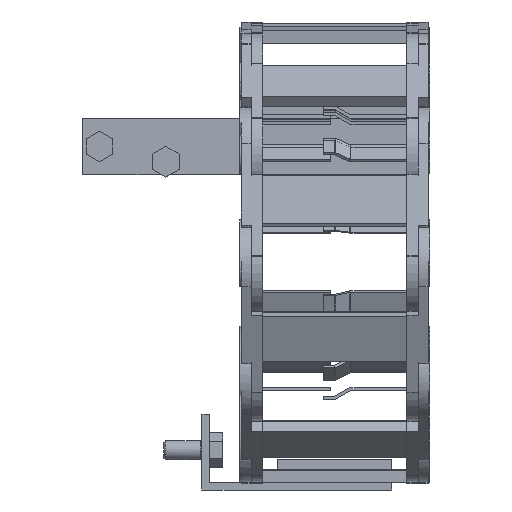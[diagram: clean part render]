
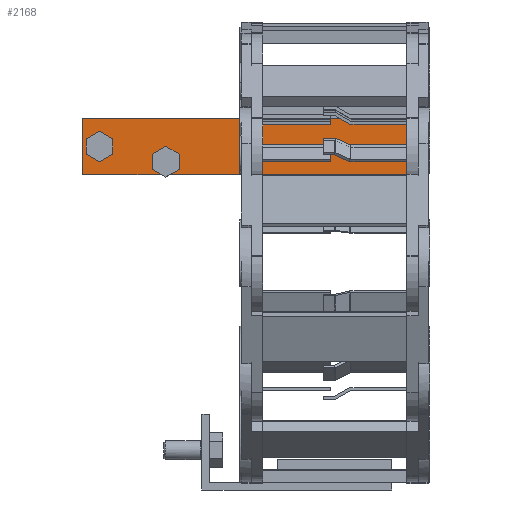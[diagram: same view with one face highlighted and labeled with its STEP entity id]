
A CAD part, left-side view. The second image highlights one B-rep face of the part: STEP entity #2168.
In plain terms, the highlighted planar face has unit normal (-1, 0, 0).
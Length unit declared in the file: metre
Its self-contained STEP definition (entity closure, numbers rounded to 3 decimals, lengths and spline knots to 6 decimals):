
#2168 = ADVANCED_FACE( '', ( #5706, #5707 ), #5708, .F. );
#5706 = FACE_OUTER_BOUND( '', #10858, .T. );
#5707 = FACE_BOUND( '', #10859, .T. );
#5708 = PLANE( '', #10860 );
#10858 = EDGE_LOOP( '', ( #16980, #16981, #16982, #16983, #16984, #16985, #16986, #16987, #16988, #16989, #16990, #16991, #16992 ) );
#10859 = EDGE_LOOP( '', ( #16993, #16994, #16995, #16996, #16997, #16998 ) );
#10860 = AXIS2_PLACEMENT_3D( '', #16999, #17000, #17001 );
#16980 = ORIENTED_EDGE( '', *, *, #32070, .F. );
#16981 = ORIENTED_EDGE( '', *, *, #32071, .F. );
#16982 = ORIENTED_EDGE( '', *, *, #31898, .F. );
#16983 = ORIENTED_EDGE( '', *, *, #32072, .F. );
#16984 = ORIENTED_EDGE( '', *, *, #32073, .F. );
#16985 = ORIENTED_EDGE( '', *, *, #31672, .F. );
#16986 = ORIENTED_EDGE( '', *, *, #32074, .T. );
#16987 = ORIENTED_EDGE( '', *, *, #32075, .T. );
#16988 = ORIENTED_EDGE( '', *, *, #32076, .T. );
#16989 = ORIENTED_EDGE( '', *, *, #32077, .F. );
#16990 = ORIENTED_EDGE( '', *, *, #31656, .F. );
#16991 = ORIENTED_EDGE( '', *, *, #32078, .F. );
#16992 = ORIENTED_EDGE( '', *, *, #32079, .T. );
#16993 = ORIENTED_EDGE( '', *, *, #32080, .F. );
#16994 = ORIENTED_EDGE( '', *, *, #31522, .F. );
#16995 = ORIENTED_EDGE( '', *, *, #31527, .F. );
#16996 = ORIENTED_EDGE( '', *, *, #32081, .F. );
#16997 = ORIENTED_EDGE( '', *, *, #32082, .F. );
#16998 = ORIENTED_EDGE( '', *, *, #32083, .F. );
#16999 = CARTESIAN_POINT( '', ( 0.0755, 0.0855, 0.0685 ) );
#17000 = DIRECTION( '', ( 1., 0., 0. ) );
#17001 = DIRECTION( '', ( 0., 0., -1. ) );
#31522 = EDGE_CURVE( '', #38164, #38165, #38166, .T. );
#31527 = EDGE_CURVE( '', #38173, #38164, #38174, .T. );
#31656 = EDGE_CURVE( '', #38404, #38405, #38406, .T. );
#31672 = EDGE_CURVE( '', #38429, #38431, #38432, .T. );
#31898 = EDGE_CURVE( '', #38836, #38837, #38838, .T. );
#32070 = EDGE_CURVE( '', #39140, #39141, #39142, .T. );
#32071 = EDGE_CURVE( '', #38837, #39140, #39143, .T. );
#32072 = EDGE_CURVE( '', #39144, #38836, #39145, .T. );
#32073 = EDGE_CURVE( '', #38431, #39144, #39146, .T. );
#32074 = EDGE_CURVE( '', #38429, #39147, #39148, .T. );
#32075 = EDGE_CURVE( '', #39147, #39149, #39150, .F. );
#32076 = EDGE_CURVE( '', #39149, #39151, #39152, .T. );
#32077 = EDGE_CURVE( '', #38405, #39151, #39153, .T. );
#32078 = EDGE_CURVE( '', #39154, #38404, #39155, .T. );
#32079 = EDGE_CURVE( '', #39154, #39141, #39156, .T. );
#32080 = EDGE_CURVE( '', #38165, #39157, #39158, .T. );
#32081 = EDGE_CURVE( '', #39159, #38173, #39160, .T. );
#32082 = EDGE_CURVE( '', #39161, #39159, #39162, .T. );
#32083 = EDGE_CURVE( '', #39157, #39161, #39163, .T. );
#38164 = VERTEX_POINT( '', #47778 );
#38165 = VERTEX_POINT( '', #47779 );
#38166 = LINE( '', #47780, #47781 );
#38173 = VERTEX_POINT( '', #47791 );
#38174 = LINE( '', #47792, #47793 );
#38404 = VERTEX_POINT( '', #48102 );
#38405 = VERTEX_POINT( '', #48103 );
#38406 = LINE( '', #48104, #48105 );
#38429 = VERTEX_POINT( '', #48139 );
#38431 = VERTEX_POINT( '', #48142 );
#38432 = LINE( '', #48143, #48144 );
#38836 = VERTEX_POINT( '', #48683 );
#38837 = VERTEX_POINT( '', #48684 );
#38838 = LINE( '', #48685, #48686 );
#39140 = VERTEX_POINT( '', #49120 );
#39141 = VERTEX_POINT( '', #49121 );
#39142 = LINE( '', #49122, #49123 );
#39143 = LINE( '', #49124, #49125 );
#39144 = VERTEX_POINT( '', #49126 );
#39145 = LINE( '', #49127, #49128 );
#39146 = LINE( '', #49129, #49130 );
#39147 = VERTEX_POINT( '', #49131 );
#39148 = LINE( '', #49132, #49133 );
#39149 = VERTEX_POINT( '', #49134 );
#39150 = LINE( '', #49135, #49136 );
#39151 = VERTEX_POINT( '', #49137 );
#39152 = LINE( '', #49138, #49139 );
#39153 = LINE( '', #49140, #49141 );
#39154 = VERTEX_POINT( '', #49142 );
#39155 = LINE( '', #49143, #49144 );
#39156 = LINE( '', #49145, #49146 );
#39157 = VERTEX_POINT( '', #49147 );
#39158 = LINE( '', #49148, #49149 );
#39159 = VERTEX_POINT( '', #49150 );
#39160 = LINE( '', #49151, #49152 );
#39161 = VERTEX_POINT( '', #49153 );
#39162 = LINE( '', #49154, #49155 );
#39163 = LINE( '', #49156, #49157 );
#47778 = CARTESIAN_POINT( '', ( 0.0755, 0.081, 0.071959 ) );
#47779 = CARTESIAN_POINT( '', ( 0.0755, 0.0775, 0.073979 ) );
#47780 = CARTESIAN_POINT( '', ( 0.0755, 0.081, 0.071959 ) );
#47781 = VECTOR( '', #59914, 1. );
#47791 = CARTESIAN_POINT( '', ( 0.0755, 0.0845, 0.073979 ) );
#47792 = CARTESIAN_POINT( '', ( 0.0755, 0.0845, 0.073979 ) );
#47793 = VECTOR( '', #59918, 1. );
#48102 = CARTESIAN_POINT( '', ( 0.0755, 0.0855, 0.0835 ) );
#48103 = CARTESIAN_POINT( '', ( 0.0755, 0.044, 0.0835 ) );
#48104 = CARTESIAN_POINT( '', ( 0.0755, 0.0855, 0.0835 ) );
#48105 = VECTOR( '', #60079, 1. );
#48139 = CARTESIAN_POINT( '', ( 0.0755, 0.062562, 0.0685 ) );
#48142 = CARTESIAN_POINT( '', ( 0.0755, 0.06, 0.069979 ) );
#48143 = CARTESIAN_POINT( '', ( 0.0755, 0.0635, 0.067959 ) );
#48144 = VECTOR( '', #60095, 1. );
#48683 = CARTESIAN_POINT( '', ( 0.0755, 0.0635, 0.076041 ) );
#48684 = CARTESIAN_POINT( '', ( 0.0755, 0.067, 0.074021 ) );
#48685 = CARTESIAN_POINT( '', ( 0.0755, 0.0635, 0.076041 ) );
#48686 = VECTOR( '', #60396, 1. );
#49120 = CARTESIAN_POINT( '', ( 0.0755, 0.067, 0.069979 ) );
#49121 = CARTESIAN_POINT( '', ( 0.0755, 0.064438, 0.0685 ) );
#49122 = CARTESIAN_POINT( '', ( 0.0755, 0.067, 0.069979 ) );
#49123 = VECTOR( '', #60616, 1. );
#49124 = CARTESIAN_POINT( '', ( 0.0755, 0.067, 0.074021 ) );
#49125 = VECTOR( '', #60617, 1. );
#49126 = CARTESIAN_POINT( '', ( 0.0755, 0.06, 0.074021 ) );
#49127 = CARTESIAN_POINT( '', ( 0.0755, 0.06, 0.074021 ) );
#49128 = VECTOR( '', #60618, 1. );
#49129 = CARTESIAN_POINT( '', ( 0.0755, 0.06, 0.069979 ) );
#49130 = VECTOR( '', #60619, 1. );
#49131 = CARTESIAN_POINT( '', ( 0.0755, -0.001, 0.0685 ) );
#49132 = CARTESIAN_POINT( '', ( 0.0755, 0.0855, 0.0685 ) );
#49133 = VECTOR( '', #60620, 1. );
#49134 = CARTESIAN_POINT( '', ( 0.0755, -0.006, 0.0735 ) );
#49135 = CARTESIAN_POINT( '', ( 0.0755, -0.001, 0.0685 ) );
#49136 = VECTOR( '', #60621, 1. );
#49137 = CARTESIAN_POINT( '', ( 0.0755, -0.006, 0.0835 ) );
#49138 = CARTESIAN_POINT( '', ( 0.0755, -0.006, 0.0685 ) );
#49139 = VECTOR( '', #60622, 1. );
#49140 = CARTESIAN_POINT( '', ( 0.0755, 0.0855, 0.0835 ) );
#49141 = VECTOR( '', #60623, 1. );
#49142 = CARTESIAN_POINT( '', ( 0.0755, 0.0855, 0.0685 ) );
#49143 = CARTESIAN_POINT( '', ( 0.0755, 0.0855, 0.0685 ) );
#49144 = VECTOR( '', #60624, 1. );
#49145 = CARTESIAN_POINT( '', ( 0.0755, 0.0855, 0.0685 ) );
#49146 = VECTOR( '', #60625, 1. );
#49147 = CARTESIAN_POINT( '', ( 0.0755, 0.0775, 0.078021 ) );
#49148 = CARTESIAN_POINT( '', ( 0.0755, 0.0775, 0.073979 ) );
#49149 = VECTOR( '', #60626, 1. );
#49150 = CARTESIAN_POINT( '', ( 0.0755, 0.0845, 0.078021 ) );
#49151 = CARTESIAN_POINT( '', ( 0.0755, 0.0845, 0.078021 ) );
#49152 = VECTOR( '', #60627, 1. );
#49153 = CARTESIAN_POINT( '', ( 0.0755, 0.081, 0.080041 ) );
#49154 = CARTESIAN_POINT( '', ( 0.0755, 0.081, 0.080041 ) );
#49155 = VECTOR( '', #60628, 1. );
#49156 = CARTESIAN_POINT( '', ( 0.0755, 0.0775, 0.078021 ) );
#49157 = VECTOR( '', #60629, 1. );
#59914 = DIRECTION( '', ( 0., -0.866, 0.5 ) );
#59918 = DIRECTION( '', ( 0., -0.866, -0.5 ) );
#60079 = DIRECTION( '', ( 0., -1., 0. ) );
#60095 = DIRECTION( '', ( 0., -0.866, 0.5 ) );
#60396 = DIRECTION( '', ( 0., 0.866, -0.5 ) );
#60616 = DIRECTION( '', ( 0., -0.866, -0.5 ) );
#60617 = DIRECTION( '', ( 0., 0., -1. ) );
#60618 = DIRECTION( '', ( 0., 0.866, 0.5 ) );
#60619 = DIRECTION( '', ( 0., 0., 1. ) );
#60620 = DIRECTION( '', ( 0., -1., 0. ) );
#60621 = DIRECTION( '', ( 0., 0.707, -0.707 ) );
#60622 = DIRECTION( '', ( 0., 0., 1. ) );
#60623 = DIRECTION( '', ( 0., -1., 0. ) );
#60624 = DIRECTION( '', ( 0., 0., 1. ) );
#60625 = DIRECTION( '', ( 0., -1., 0. ) );
#60626 = DIRECTION( '', ( 0., 0., 1. ) );
#60627 = DIRECTION( '', ( 0., 0., -1. ) );
#60628 = DIRECTION( '', ( 0., 0.866, -0.5 ) );
#60629 = DIRECTION( '', ( 0., 0.866, 0.5 ) );
